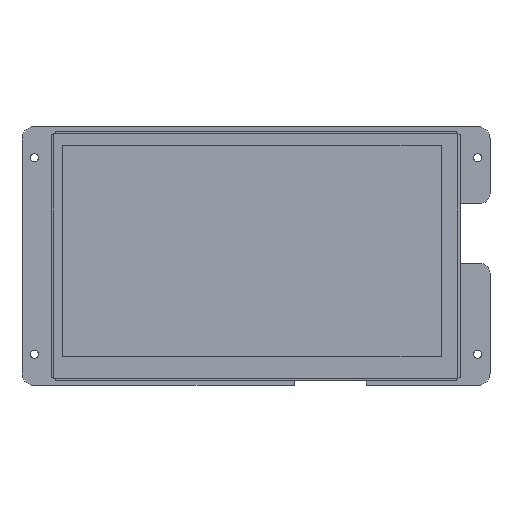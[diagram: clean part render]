
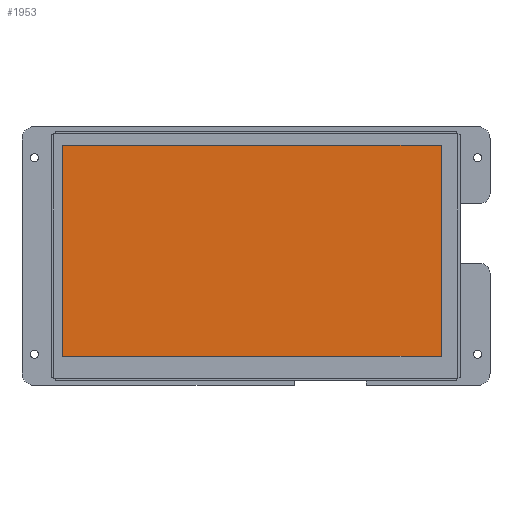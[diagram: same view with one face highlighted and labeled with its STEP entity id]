
A CAD part, top view. The second image highlights one B-rep face of the part: STEP entity #1953.
In plain terms, the highlighted planar face has unit normal (0, 0, 1).
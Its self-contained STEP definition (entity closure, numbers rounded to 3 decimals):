
#653=DIRECTION('',(0.,1.,0.));
#654=VECTOR('',#653,85.92);
#655=CARTESIAN_POINT('',(171.509,13.201,6.175));
#656=LINE('',#655,#654);
#657=DIRECTION('',(1.,0.,0.));
#658=VECTOR('',#657,154.08);
#659=CARTESIAN_POINT('',(17.429,13.201,6.175));
#660=LINE('',#659,#658);
#661=DIRECTION('',(0.,-1.,0.));
#662=VECTOR('',#661,85.92);
#663=CARTESIAN_POINT('',(17.429,99.121,6.175));
#664=LINE('',#663,#662);
#665=DIRECTION('',(-1.,0.,0.));
#666=VECTOR('',#665,154.08);
#667=CARTESIAN_POINT('',(171.509,99.121,6.175));
#668=LINE('',#667,#666);
#1112=CARTESIAN_POINT('',(171.509,13.201,6.175));
#1113=CARTESIAN_POINT('',(171.509,99.121,6.175));
#1114=VERTEX_POINT('',#1112);
#1115=VERTEX_POINT('',#1113);
#1116=CARTESIAN_POINT('',(17.429,99.121,6.175));
#1117=VERTEX_POINT('',#1116);
#1118=CARTESIAN_POINT('',(17.429,13.201,6.175));
#1119=VERTEX_POINT('',#1118);
#1942=CARTESIAN_POINT('',(0.,0.,6.175));
#1943=DIRECTION('',(0.,0.,1.));
#1944=DIRECTION('',(0.,-1.,0.));
#1945=AXIS2_PLACEMENT_3D('',#1942,#1943,#1944);
#1946=PLANE('',#1945);
#1947=ORIENTED_EDGE('',*,*,#1894,.F.);
#1948=ORIENTED_EDGE('',*,*,#1909,.F.);
#1949=ORIENTED_EDGE('',*,*,#1923,.F.);
#1950=ORIENTED_EDGE('',*,*,#1936,.F.);
#1951=EDGE_LOOP('',(#1947,#1948,#1949,#1950));
#1952=FACE_OUTER_BOUND('',#1951,.F.);
#1894=EDGE_CURVE('',#1114,#1115,#656,.T.);
#1909=EDGE_CURVE('',#1119,#1114,#660,.T.);
#1923=EDGE_CURVE('',#1117,#1119,#664,.T.);
#1936=EDGE_CURVE('',#1115,#1117,#668,.T.);
#1953=ADVANCED_FACE('',(#1952),#1946,.T.);
